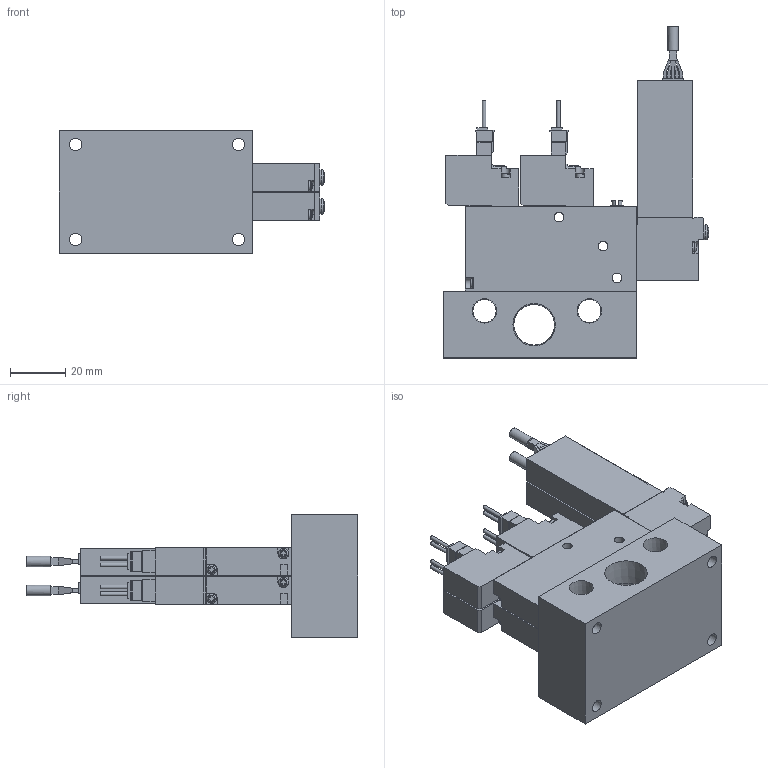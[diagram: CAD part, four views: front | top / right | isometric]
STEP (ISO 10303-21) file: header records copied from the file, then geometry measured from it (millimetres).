
FILE_DESCRIPTION(('STEP AP203'),'1');
FILE_NAME('BMPV42MV9.V9P5A(B)202.stp','2025-04-30T01:23:13',(' '),(' '),'Spatial InterOp 3D',' ',' ');
FILE_SCHEMA(('CONFIG_CONTROL_DESIGN'));
Length unit declared in the file: millimetre
Products named in the file (5): BMPV42MV9.V9P5A(B)202; VACUUM VALVE FUNCTION MPV42-A; VACUUM SENSOR MPV42-V9; UNIT-MPV42; MPV42-M20R-1
Assembly tree (9 placements, depth 2):
  BMPV42MV9.V9P5A(B)202
    VACUUM VALVE FUNCTION MPV42-A  x4
    VACUUM SENSOR MPV42-V9  x2
    UNIT-MPV42  x2
    MPV42-M20R-1
Bounding box: 96.35 x 120.3 x 44.5 mm (x, y, z)
Volume: 147023.3 mm3; surface area: 49233.7 mm2
Topology: 9 solids, 9 shells, 779 faces, 2109 edges, 1396 vertices
Faces by surface type: plane 606, cylinder 139, cone 14, sphere 10, torus 10
Full cylindrical faces by diameter (mm): 1.4 x8, 1.8 x2, 2.2 x4, 3 x8, 3.5 x22, 3.8 x2, 4.134 x4, 4.5 x4, 5 x2, 5.5 x2, 8.441 x2, 14.744 x1
Entity records: 9503 total; most frequent: CARTESIAN_POINT 1856, DIRECTION 1499, ORIENTED_EDGE 1474, EDGE_CURVE 737, LINE 551, VECTOR 551, VERTEX_POINT 513, AXIS2_PLACEMENT_3D 474
